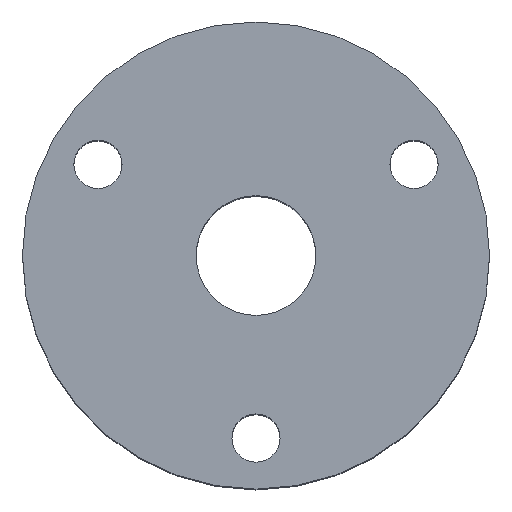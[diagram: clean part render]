
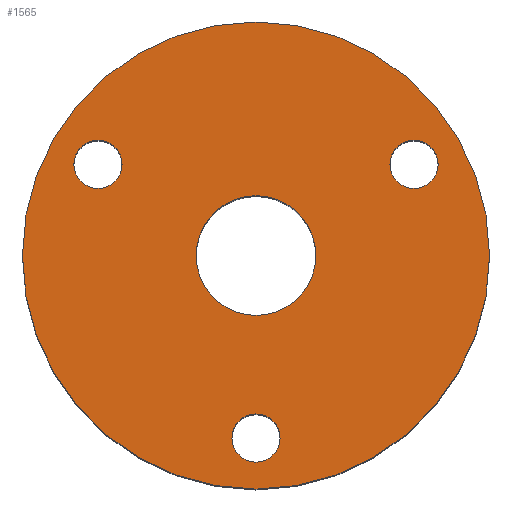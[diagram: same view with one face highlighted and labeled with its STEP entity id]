
A CAD part, top view. The second image highlights one B-rep face of the part: STEP entity #1565.
In plain terms, the highlighted planar face has unit normal (0, 0, 1).
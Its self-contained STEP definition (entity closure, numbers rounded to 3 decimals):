
#450 = CYLINDRICAL_SURFACE('',#451,16.);
#451 = AXIS2_PLACEMENT_3D('',#452,#453,#454);
#452 = CARTESIAN_POINT('',(0.,0.,13.8));
#453 = DIRECTION('',(0.,0.,1.));
#454 = DIRECTION('',(1.,0.,-0.));
#481 = CYLINDRICAL_SURFACE('',#482,1.65);
#482 = AXIS2_PLACEMENT_3D('',#483,#484,#485);
#483 = CARTESIAN_POINT('',(0.,-12.5,-20.));
#484 = DIRECTION('',(0.,0.,1.));
#485 = DIRECTION('',(1.,0.,-0.));
#512 = CYLINDRICAL_SURFACE('',#513,1.65);
#513 = AXIS2_PLACEMENT_3D('',#514,#515,#516);
#514 = CARTESIAN_POINT('',(-10.825,6.25,-20.));
#515 = DIRECTION('',(0.,0.,1.));
#516 = DIRECTION('',(1.,0.,-0.));
#546 = CYLINDRICAL_SURFACE('',#547,1.65);
#547 = AXIS2_PLACEMENT_3D('',#548,#549,#550);
#548 = CARTESIAN_POINT('',(10.825,6.25,-20.));
#549 = DIRECTION('',(0.,0.,1.));
#550 = DIRECTION('',(1.,0.,-0.));
#823 = CYLINDRICAL_SURFACE('',#824,4.1);
#824 = AXIS2_PLACEMENT_3D('',#825,#826,#827);
#825 = CARTESIAN_POINT('',(0.,0.,-18.4));
#826 = DIRECTION('',(0.,0.,1.));
#827 = DIRECTION('',(1.,0.,-0.));
#1080 = EDGE_CURVE('',#1081,#1081,#1083,.T.);
#1081 = VERTEX_POINT('',#1082);
#1082 = CARTESIAN_POINT('',(16.,0.,17.4));
#1083 = SURFACE_CURVE('',#1084,(#1089,#1096),.PCURVE_S1.);
#1084 = CIRCLE('',#1085,16.);
#1085 = AXIS2_PLACEMENT_3D('',#1086,#1087,#1088);
#1086 = CARTESIAN_POINT('',(0.,0.,17.4));
#1087 = DIRECTION('',(0.,0.,1.));
#1088 = DIRECTION('',(1.,0.,-0.));
#1089 = PCURVE('',#450,#1090);
#1090 = DEFINITIONAL_REPRESENTATION('',(#1091),#1095);
#1091 = LINE('',#1092,#1093);
#1092 = CARTESIAN_POINT('',(0.,3.6));
#1093 = VECTOR('',#1094,1.);
#1094 = DIRECTION('',(1.,0.));
#1095 = ( GEOMETRIC_REPRESENTATION_CONTEXT(2) 
PARAMETRIC_REPRESENTATION_CONTEXT() REPRESENTATION_CONTEXT('2D SPACE',''
  ) );
#1096 = PCURVE('',#1097,#1102);
#1097 = PLANE('',#1098);
#1098 = AXIS2_PLACEMENT_3D('',#1099,#1100,#1101);
#1099 = CARTESIAN_POINT('',(0.,0.,17.4));
#1100 = DIRECTION('',(0.,0.,1.));
#1101 = DIRECTION('',(1.,0.,-0.));
#1102 = DEFINITIONAL_REPRESENTATION('',(#1103),#1107);
#1103 = CIRCLE('',#1104,16.);
#1104 = AXIS2_PLACEMENT_2D('',#1105,#1106);
#1105 = CARTESIAN_POINT('',(0.,0.));
#1106 = DIRECTION('',(1.,0.));
#1107 = ( GEOMETRIC_REPRESENTATION_CONTEXT(2) 
PARAMETRIC_REPRESENTATION_CONTEXT() REPRESENTATION_CONTEXT('2D SPACE',''
  ) );
#1135 = EDGE_CURVE('',#1136,#1136,#1138,.T.);
#1136 = VERTEX_POINT('',#1137);
#1137 = CARTESIAN_POINT('',(1.65,-12.5,17.4));
#1138 = SURFACE_CURVE('',#1139,(#1144,#1151),.PCURVE_S1.);
#1139 = CIRCLE('',#1140,1.65);
#1140 = AXIS2_PLACEMENT_3D('',#1141,#1142,#1143);
#1141 = CARTESIAN_POINT('',(0.,-12.5,17.4));
#1142 = DIRECTION('',(0.,0.,1.));
#1143 = DIRECTION('',(1.,0.,-0.));
#1144 = PCURVE('',#481,#1145);
#1145 = DEFINITIONAL_REPRESENTATION('',(#1146),#1150);
#1146 = LINE('',#1147,#1148);
#1147 = CARTESIAN_POINT('',(0.,37.4));
#1148 = VECTOR('',#1149,1.);
#1149 = DIRECTION('',(1.,0.));
#1150 = ( GEOMETRIC_REPRESENTATION_CONTEXT(2) 
PARAMETRIC_REPRESENTATION_CONTEXT() REPRESENTATION_CONTEXT('2D SPACE',''
  ) );
#1151 = PCURVE('',#1097,#1152);
#1152 = DEFINITIONAL_REPRESENTATION('',(#1153),#1157);
#1153 = CIRCLE('',#1154,1.65);
#1154 = AXIS2_PLACEMENT_2D('',#1155,#1156);
#1155 = CARTESIAN_POINT('',(0.,-12.5));
#1156 = DIRECTION('',(1.,0.));
#1157 = ( GEOMETRIC_REPRESENTATION_CONTEXT(2) 
PARAMETRIC_REPRESENTATION_CONTEXT() REPRESENTATION_CONTEXT('2D SPACE',''
  ) );
#1185 = EDGE_CURVE('',#1186,#1186,#1188,.T.);
#1186 = VERTEX_POINT('',#1187);
#1187 = CARTESIAN_POINT('',(-9.175,6.25,17.4));
#1188 = SURFACE_CURVE('',#1189,(#1194,#1201),.PCURVE_S1.);
#1189 = CIRCLE('',#1190,1.65);
#1190 = AXIS2_PLACEMENT_3D('',#1191,#1192,#1193);
#1191 = CARTESIAN_POINT('',(-10.825,6.25,17.4));
#1192 = DIRECTION('',(0.,0.,1.));
#1193 = DIRECTION('',(1.,0.,-0.));
#1194 = PCURVE('',#512,#1195);
#1195 = DEFINITIONAL_REPRESENTATION('',(#1196),#1200);
#1196 = LINE('',#1197,#1198);
#1197 = CARTESIAN_POINT('',(0.,37.4));
#1198 = VECTOR('',#1199,1.);
#1199 = DIRECTION('',(1.,0.));
#1200 = ( GEOMETRIC_REPRESENTATION_CONTEXT(2) 
PARAMETRIC_REPRESENTATION_CONTEXT() REPRESENTATION_CONTEXT('2D SPACE',''
  ) );
#1201 = PCURVE('',#1097,#1202);
#1202 = DEFINITIONAL_REPRESENTATION('',(#1203),#1207);
#1203 = CIRCLE('',#1204,1.65);
#1204 = AXIS2_PLACEMENT_2D('',#1205,#1206);
#1205 = CARTESIAN_POINT('',(-10.825,6.25));
#1206 = DIRECTION('',(1.,0.));
#1207 = ( GEOMETRIC_REPRESENTATION_CONTEXT(2) 
PARAMETRIC_REPRESENTATION_CONTEXT() REPRESENTATION_CONTEXT('2D SPACE',''
  ) );
#1235 = EDGE_CURVE('',#1236,#1236,#1238,.T.);
#1236 = VERTEX_POINT('',#1237);
#1237 = CARTESIAN_POINT('',(12.475,6.25,17.4));
#1238 = SURFACE_CURVE('',#1239,(#1244,#1251),.PCURVE_S1.);
#1239 = CIRCLE('',#1240,1.65);
#1240 = AXIS2_PLACEMENT_3D('',#1241,#1242,#1243);
#1241 = CARTESIAN_POINT('',(10.825,6.25,17.4));
#1242 = DIRECTION('',(0.,0.,1.));
#1243 = DIRECTION('',(1.,0.,-0.));
#1244 = PCURVE('',#546,#1245);
#1245 = DEFINITIONAL_REPRESENTATION('',(#1246),#1250);
#1246 = LINE('',#1247,#1248);
#1247 = CARTESIAN_POINT('',(0.,37.4));
#1248 = VECTOR('',#1249,1.);
#1249 = DIRECTION('',(1.,0.));
#1250 = ( GEOMETRIC_REPRESENTATION_CONTEXT(2) 
PARAMETRIC_REPRESENTATION_CONTEXT() REPRESENTATION_CONTEXT('2D SPACE',''
  ) );
#1251 = PCURVE('',#1097,#1252);
#1252 = DEFINITIONAL_REPRESENTATION('',(#1253),#1257);
#1253 = CIRCLE('',#1254,1.65);
#1254 = AXIS2_PLACEMENT_2D('',#1255,#1256);
#1255 = CARTESIAN_POINT('',(10.825,6.25));
#1256 = DIRECTION('',(1.,0.));
#1257 = ( GEOMETRIC_REPRESENTATION_CONTEXT(2) 
PARAMETRIC_REPRESENTATION_CONTEXT() REPRESENTATION_CONTEXT('2D SPACE',''
  ) );
#1491 = VERTEX_POINT('',#1492);
#1492 = CARTESIAN_POINT('',(4.1,0.,17.4));
#1538 = EDGE_CURVE('',#1491,#1491,#1539,.T.);
#1539 = SURFACE_CURVE('',#1540,(#1545,#1552),.PCURVE_S1.);
#1540 = CIRCLE('',#1541,4.1);
#1541 = AXIS2_PLACEMENT_3D('',#1542,#1543,#1544);
#1542 = CARTESIAN_POINT('',(0.,0.,17.4));
#1543 = DIRECTION('',(0.,0.,1.));
#1544 = DIRECTION('',(1.,0.,-0.));
#1545 = PCURVE('',#823,#1546);
#1546 = DEFINITIONAL_REPRESENTATION('',(#1547),#1551);
#1547 = LINE('',#1548,#1549);
#1548 = CARTESIAN_POINT('',(0.,35.8));
#1549 = VECTOR('',#1550,1.);
#1550 = DIRECTION('',(1.,0.));
#1551 = ( GEOMETRIC_REPRESENTATION_CONTEXT(2) 
PARAMETRIC_REPRESENTATION_CONTEXT() REPRESENTATION_CONTEXT('2D SPACE',''
  ) );
#1552 = PCURVE('',#1097,#1553);
#1553 = DEFINITIONAL_REPRESENTATION('',(#1554),#1558);
#1554 = CIRCLE('',#1555,4.1);
#1555 = AXIS2_PLACEMENT_2D('',#1556,#1557);
#1556 = CARTESIAN_POINT('',(0.,0.));
#1557 = DIRECTION('',(1.,0.));
#1558 = ( GEOMETRIC_REPRESENTATION_CONTEXT(2) 
PARAMETRIC_REPRESENTATION_CONTEXT() REPRESENTATION_CONTEXT('2D SPACE',''
  ) );
#1565 = ADVANCED_FACE('',(#1566,#1569,#1572,#1575,#1578),#1097,.T.);
#1566 = FACE_BOUND('',#1567,.T.);
#1567 = EDGE_LOOP('',(#1568));
#1568 = ORIENTED_EDGE('',*,*,#1080,.T.);
#1569 = FACE_BOUND('',#1570,.T.);
#1570 = EDGE_LOOP('',(#1571));
#1571 = ORIENTED_EDGE('',*,*,#1135,.F.);
#1572 = FACE_BOUND('',#1573,.T.);
#1573 = EDGE_LOOP('',(#1574));
#1574 = ORIENTED_EDGE('',*,*,#1185,.F.);
#1575 = FACE_BOUND('',#1576,.T.);
#1576 = EDGE_LOOP('',(#1577));
#1577 = ORIENTED_EDGE('',*,*,#1538,.F.);
#1578 = FACE_BOUND('',#1579,.T.);
#1579 = EDGE_LOOP('',(#1580));
#1580 = ORIENTED_EDGE('',*,*,#1235,.F.);
